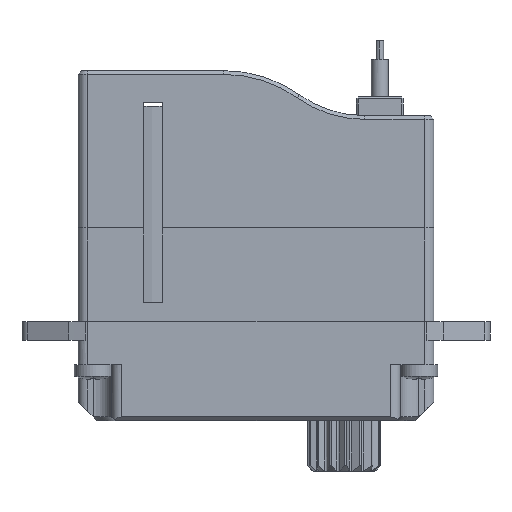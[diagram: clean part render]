
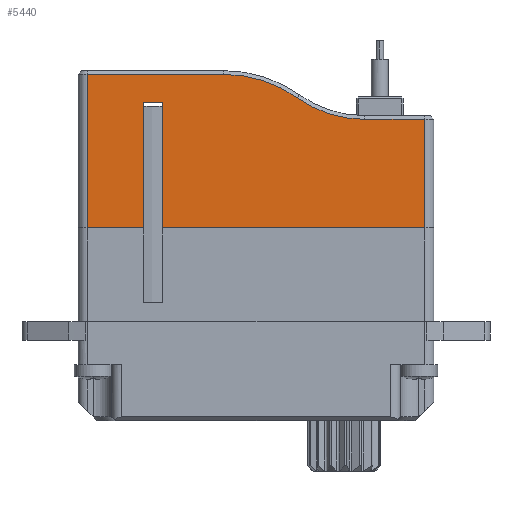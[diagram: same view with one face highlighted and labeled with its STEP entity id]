
A CAD part, front view. The second image highlights one B-rep face of the part: STEP entity #5440.
In plain terms, the highlighted planar face has unit normal (0, -1, 0).
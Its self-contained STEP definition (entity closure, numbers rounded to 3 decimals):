
#78 = VERTEX_POINT ( 'NONE', #3281 ) ;
#116 = LINE ( 'NONE', #2348, #10321 ) ;
#179 = EDGE_CURVE ( 'NONE', #15683, #15043, #12064, .T. ) ;
#326 = ORIENTED_EDGE ( 'NONE', *, *, #1621, .F. ) ;
#416 = ORIENTED_EDGE ( 'NONE', *, *, #6843, .T. ) ;
#856 = DIRECTION ( 'NONE',  ( 0., 0., 1. ) ) ;
#890 = ORIENTED_EDGE ( 'NONE', *, *, #10398, .T. ) ;
#1480 = ORIENTED_EDGE ( 'NONE', *, *, #5034, .F. ) ;
#1621 = EDGE_CURVE ( 'NONE', #15043, #7048, #12710, .T. ) ;
#1746 = CIRCLE ( 'NONE', #8883, 6.2 ) ;
#1747 = VECTOR ( 'NONE', #10515, 1000. ) ;
#1751 = VECTOR ( 'NONE', #4706, 1000. ) ;
#2063 = PLANE ( 'NONE',  #4809 ) ;
#2114 = CARTESIAN_POINT ( 'NONE',  ( -80.26, -6.011, 9.7 ) ) ;
#2179 = CARTESIAN_POINT ( 'NONE',  ( -79.26, -6.011, 9.7 ) ) ;
#2210 = DIRECTION ( 'NONE',  ( 0., -1., 0. ) ) ;
#2348 = CARTESIAN_POINT ( 'NONE',  ( -68.46, -6.011, 8.8 ) ) ;
#2452 = CARTESIAN_POINT ( 'NONE',  ( -80.26, -6.011, 3. ) ) ;
#2460 = DIRECTION ( 'NONE',  ( -1., 0., 0. ) ) ;
#3281 = CARTESIAN_POINT ( 'NONE',  ( -79.26, -6.011, 3. ) ) ;
#3425 = CARTESIAN_POINT ( 'NONE',  ( -83.26, -6.011, 4.2 ) ) ;
#3482 = DIRECTION ( 'NONE',  ( 0., 0., 1. ) ) ;
#3525 = VERTEX_POINT ( 'NONE', #12532 ) ;
#4492 = VECTOR ( 'NONE', #13239, 1000. ) ;
#4539 = CARTESIAN_POINT ( 'NONE',  ( -83.76, -6.011, 4.2 ) ) ;
#4658 = VERTEX_POINT ( 'NONE', #5912 ) ;
#4706 = DIRECTION ( 'NONE',  ( -1., 0., 0. ) ) ;
#4727 = EDGE_CURVE ( 'NONE', #14898, #6380, #1746, .T. ) ;
#4796 = LINE ( 'NONE', #15394, #5002 ) ;
#4809 = AXIS2_PLACEMENT_3D ( 'NONE', #4539, #13299, #856 ) ;
#4991 = DIRECTION ( 'NONE',  ( 0., 0., 1. ) ) ;
#5002 = VECTOR ( 'NONE', #11579, 1000. ) ;
#5034 = EDGE_CURVE ( 'NONE', #10479, #78, #6446, .T. ) ;
#5095 = LINE ( 'NONE', #8021, #1747 ) ;
#5413 = VERTEX_POINT ( 'NONE', #14669 ) ;
#5423 = VECTOR ( 'NONE', #10831, 1000. ) ;
#5440 = ADVANCED_FACE ( 'NONE', ( #9571 ), #2063, .F. ) ;
#5441 = EDGE_CURVE ( 'NONE', #5413, #78, #6027, .T. ) ;
#5499 = ORIENTED_EDGE ( 'NONE', *, *, #179, .F. ) ;
#5912 = CARTESIAN_POINT ( 'NONE',  ( -83.26, -6.011, 11.2 ) ) ;
#6027 = LINE ( 'NONE', #2179, #4492 ) ;
#6380 = VERTEX_POINT ( 'NONE', #6461 ) ;
#6446 = LINE ( 'NONE', #7219, #1751 ) ;
#6461 = CARTESIAN_POINT ( 'NONE',  ( -72.05, -6.011, 9.945 ) ) ;
#6567 = CARTESIAN_POINT ( 'NONE',  ( -80.26, -6.011, 9.7 ) ) ;
#6712 = EDGE_CURVE ( 'NONE', #6380, #3525, #11779, .T. ) ;
#6814 = DIRECTION ( 'NONE',  ( -1., 0., 0. ) ) ;
#6843 = EDGE_CURVE ( 'NONE', #10479, #10004, #12150, .T. ) ;
#7048 = VERTEX_POINT ( 'NONE', #13512 ) ;
#7219 = CARTESIAN_POINT ( 'NONE',  ( -65.26, -6.011, 3. ) ) ;
#8021 = CARTESIAN_POINT ( 'NONE',  ( -83.76, -6.011, 11.2 ) ) ;
#8883 = AXIS2_PLACEMENT_3D ( 'NONE', #12190, #10820, #12091 ) ;
#9120 = ORIENTED_EDGE ( 'NONE', *, *, #4727, .T. ) ;
#9272 = EDGE_LOOP ( 'NONE', ( #416, #890, #9120, #13461, #9442, #15233, #326, #5499, #9972, #9768, #1480 ) ) ;
#9442 = ORIENTED_EDGE ( 'NONE', *, *, #11703, .T. ) ;
#9474 = CARTESIAN_POINT ( 'NONE',  ( -80.26, -6.011, 3. ) ) ;
#9571 = FACE_OUTER_BOUND ( 'NONE', #9272, .T. ) ;
#9768 = ORIENTED_EDGE ( 'NONE', *, *, #5441, .T. ) ;
#9860 = EDGE_CURVE ( 'NONE', #4658, #7048, #15425, .T. ) ;
#9972 = ORIENTED_EDGE ( 'NONE', *, *, #11140, .F. ) ;
#10004 = VERTEX_POINT ( 'NONE', #13688 ) ;
#10321 = VECTOR ( 'NONE', #2460, 1000. ) ;
#10398 = EDGE_CURVE ( 'NONE', #10004, #14898, #116, .T. ) ;
#10479 = VERTEX_POINT ( 'NONE', #13715 ) ;
#10515 = DIRECTION ( 'NONE',  ( -1., 0., 0. ) ) ;
#10595 = VECTOR ( 'NONE', #4991, 1000. ) ;
#10820 = DIRECTION ( 'NONE',  ( 0., 1., 0. ) ) ;
#10831 = DIRECTION ( 'NONE',  ( 0., 0., -1. ) ) ;
#10975 = DIRECTION ( 'NONE',  ( 0., 0., -1. ) ) ;
#11140 = EDGE_CURVE ( 'NONE', #5413, #15683, #4796, .T. ) ;
#11284 = CARTESIAN_POINT ( 'NONE',  ( -68.46, -6.011, 8.8 ) ) ;
#11579 = DIRECTION ( 'NONE',  ( -1., 0., 0. ) ) ;
#11703 = EDGE_CURVE ( 'NONE', #3525, #4658, #5095, .T. ) ;
#11779 = CIRCLE ( 'NONE', #16221, 6.8 ) ;
#12064 = LINE ( 'NONE', #2114, #5423 ) ;
#12091 = DIRECTION ( 'NONE',  ( 0., 0., 1. ) ) ;
#12150 = LINE ( 'NONE', #12447, #10595 ) ;
#12190 = CARTESIAN_POINT ( 'NONE',  ( -68.46, -6.011, 15. ) ) ;
#12447 = CARTESIAN_POINT ( 'NONE',  ( -65.26, -6.011, 4.2 ) ) ;
#12532 = CARTESIAN_POINT ( 'NONE',  ( -75.986, -6.011, 11.2 ) ) ;
#12710 = LINE ( 'NONE', #9474, #15654 ) ;
#13239 = DIRECTION ( 'NONE',  ( 0., 0., -1. ) ) ;
#13261 = VECTOR ( 'NONE', #10975, 1000. ) ;
#13299 = DIRECTION ( 'NONE',  ( 0., 1., 0. ) ) ;
#13461 = ORIENTED_EDGE ( 'NONE', *, *, #6712, .T. ) ;
#13512 = CARTESIAN_POINT ( 'NONE',  ( -83.26, -6.011, 3. ) ) ;
#13688 = CARTESIAN_POINT ( 'NONE',  ( -65.26, -6.011, 8.8 ) ) ;
#13715 = CARTESIAN_POINT ( 'NONE',  ( -65.26, -6.011, 3. ) ) ;
#14641 = CARTESIAN_POINT ( 'NONE',  ( -75.986, -6.011, 4.4 ) ) ;
#14669 = CARTESIAN_POINT ( 'NONE',  ( -79.26, -6.011, 9.7 ) ) ;
#14898 = VERTEX_POINT ( 'NONE', #11284 ) ;
#15043 = VERTEX_POINT ( 'NONE', #2452 ) ;
#15233 = ORIENTED_EDGE ( 'NONE', *, *, #9860, .T. ) ;
#15394 = CARTESIAN_POINT ( 'NONE',  ( -79.26, -6.011, 9.7 ) ) ;
#15425 = LINE ( 'NONE', #3425, #13261 ) ;
#15654 = VECTOR ( 'NONE', #6814, 1000. ) ;
#15683 = VERTEX_POINT ( 'NONE', #6567 ) ;
#16221 = AXIS2_PLACEMENT_3D ( 'NONE', #14641, #2210, #3482 ) ;
